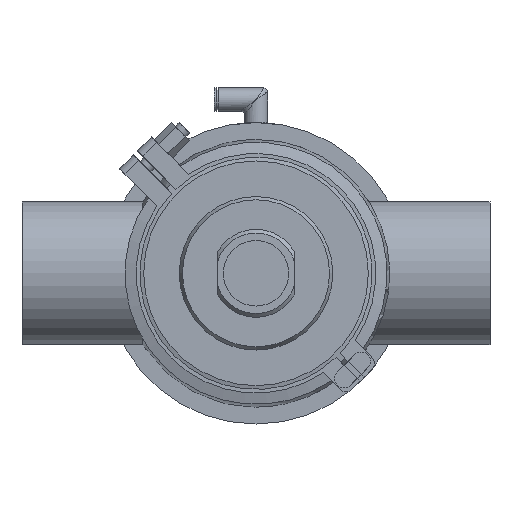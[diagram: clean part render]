
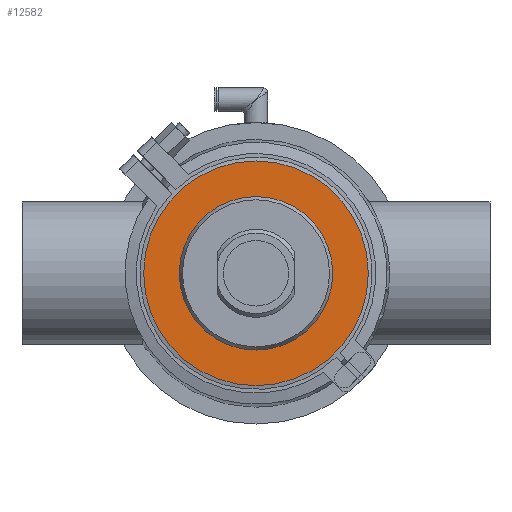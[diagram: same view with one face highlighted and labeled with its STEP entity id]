
A CAD part, front view. The second image highlights one B-rep face of the part: STEP entity #12582.
In plain terms, the highlighted planar face has unit normal (0, -1, 0).
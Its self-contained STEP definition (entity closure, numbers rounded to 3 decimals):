
#730 = DIRECTION ( 'NONE',  ( 0., 0., -1. ) ) ;
#4707 = EDGE_LOOP ( 'NONE', ( #9618 ) ) ;
#8778 = AXIS2_PLACEMENT_3D ( 'NONE', #8831, #21283, #14217 ) ;
#8831 = CARTESIAN_POINT ( 'NONE',  ( 0., -13., 0. ) ) ;
#8851 = EDGE_LOOP ( 'NONE', ( #19614 ) ) ;
#9618 = ORIENTED_EDGE ( 'NONE', *, *, #9900, .T. ) ;
#9900 = EDGE_CURVE ( 'NONE', #17675, #17675, #15370, .T. ) ;
#11113 = VERTEX_POINT ( 'NONE', #16255 ) ;
#11184 = DIRECTION ( 'NONE',  ( 0., 0., 1. ) ) ;
#11523 = CARTESIAN_POINT ( 'NONE',  ( 0., -13., 0. ) ) ;
#12582 = ADVANCED_FACE ( 'NONE', ( #20015, #21975 ), #18146, .T. ) ;
#14217 = DIRECTION ( 'NONE',  ( 0., 0., 1. ) ) ;
#14439 = DIRECTION ( 'NONE',  ( 0., -1., 0. ) ) ;
#14535 = EDGE_CURVE ( 'NONE', #11113, #11113, #15165, .T. ) ;
#14547 = CARTESIAN_POINT ( 'NONE',  ( -60., -13., 0. ) ) ;
#15165 = CIRCLE ( 'NONE', #19996, 60. ) ;
#15370 = CIRCLE ( 'NONE', #8778, 41. ) ;
#16255 = CARTESIAN_POINT ( 'NONE',  ( 0., -13., 60. ) ) ;
#17081 = AXIS2_PLACEMENT_3D ( 'NONE', #14547, #14439, #730 ) ;
#17675 = VERTEX_POINT ( 'NONE', #19068 ) ;
#18146 = PLANE ( 'NONE',  #17081 ) ;
#18530 = DIRECTION ( 'NONE',  ( 0., 1., 0. ) ) ;
#19068 = CARTESIAN_POINT ( 'NONE',  ( 0., -13., 41. ) ) ;
#19614 = ORIENTED_EDGE ( 'NONE', *, *, #14535, .F. ) ;
#19996 = AXIS2_PLACEMENT_3D ( 'NONE', #11523, #18530, #11184 ) ;
#20015 = FACE_BOUND ( 'NONE', #4707, .T. ) ;
#21283 = DIRECTION ( 'NONE',  ( 0., 1., 0. ) ) ;
#21975 = FACE_OUTER_BOUND ( 'NONE', #8851, .T. ) ;
